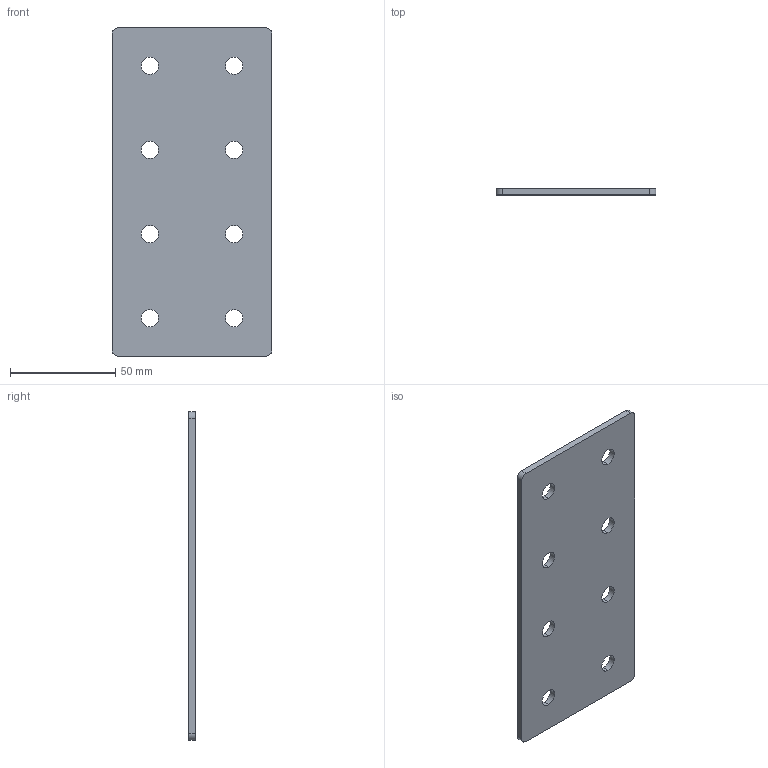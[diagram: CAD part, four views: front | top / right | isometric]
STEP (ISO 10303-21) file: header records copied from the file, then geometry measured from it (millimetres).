
FILE_DESCRIPTION (( 'STEP AP203' ), '1' );
FILE_NAME ('ﾏ-8-40.STEP', '2016-07-23T15:27:26', ( '' ), ( '' ), 'SwSTEP 2.0', 'SolidWorks 2014', '' );
FILE_SCHEMA (( 'CONFIG_CONTROL_DESIGN' ));
Length unit declared in the file: millimetre
Products named in the file (1): ﾏ-8-40
Bounding box: 76 x 3 x 156 mm (x, y, z)
Surface area: 24846.4 mm2 (no closed solid volume)
Topology: 0 solids, 1 shells, 26 faces, 72 edges, 48 vertices
Faces by surface type: cylinder 20, plane 6
Entity records: 965 total; most frequent: DIRECTION 166, CARTESIAN_POINT 147, ORIENTED_EDGE 144, EDGE_CURVE 72, AXIS2_PLACEMENT_3D 67, VERTEX_POINT 48, EDGE_LOOP 42, CIRCLE 40
